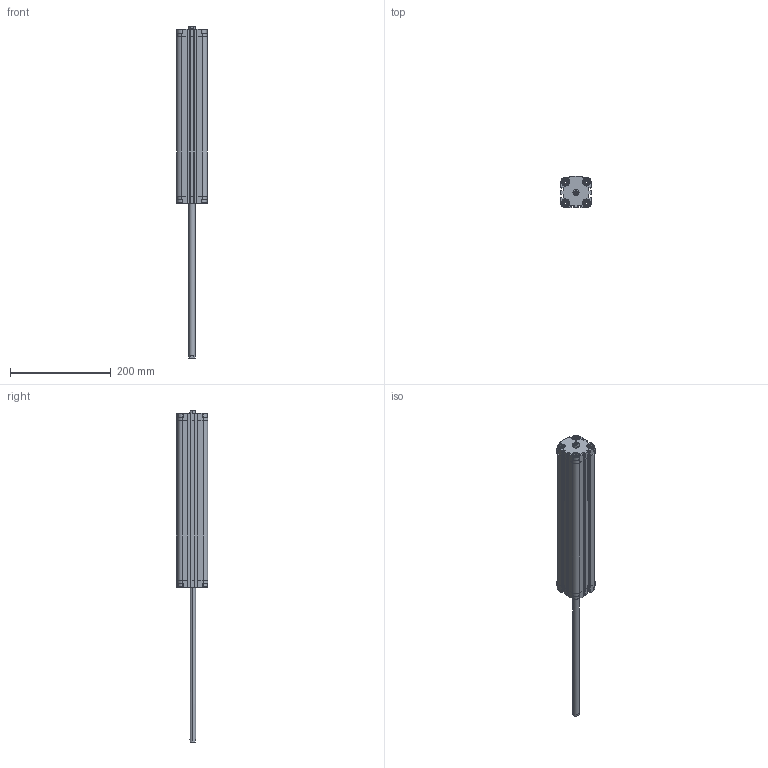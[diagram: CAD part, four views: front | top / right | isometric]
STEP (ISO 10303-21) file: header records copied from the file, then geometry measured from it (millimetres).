
FILE_DESCRIPTION (( 'STEP AP203' ), '1' );
FILE_NAME ('CDVU40-300F-P.STEP', '2020-07-24T18:35:41', ( '' ), ( '' ), 'SwSTEP 2.0', 'SolidWorks 2019', '' );
FILE_SCHEMA (( 'CONFIG_CONTROL_DESIGN' ));
Length unit declared in the file: millimetre
Products named in the file (1): CDVU40-300F-P
Bounding box: 60 x 62.5 x 658.5 mm (x, y, z)
Volume: 791261.6 mm3; surface area: 219839.2 mm2
Topology: 2 solids, 2 shells, 722 faces, 1928 edges, 1244 vertices
Faces by surface type: plane 422, cylinder 236, cone 64
Entity records: 22623 total; most frequent: CARTESIAN_POINT 4463, ORIENTED_EDGE 3840, DIRECTION 3710, EDGE_CURVE 1920, AXIS2_PLACEMENT_3D 1259, VERTEX_POINT 1244, LINE 1192, VECTOR 1192
